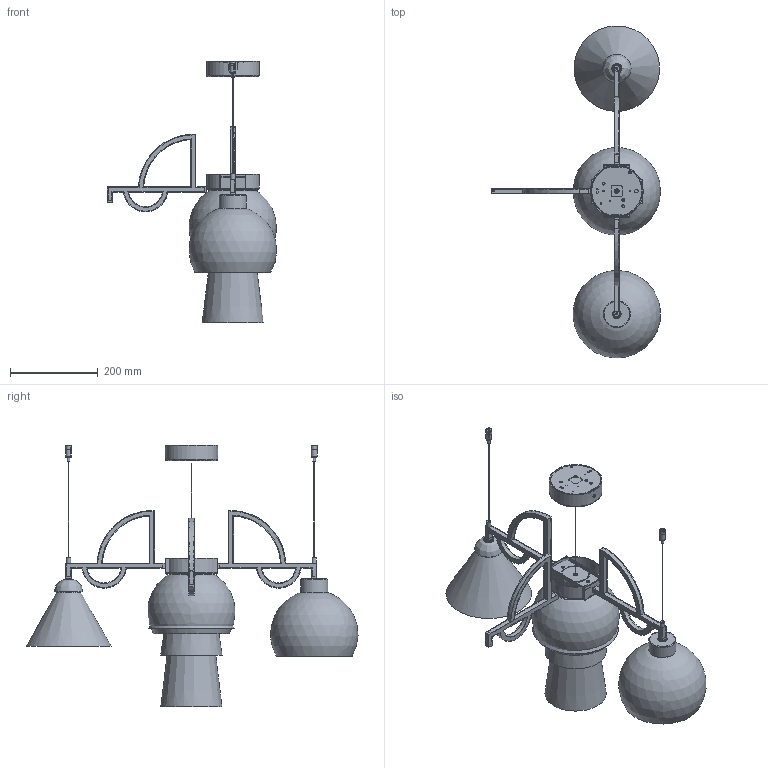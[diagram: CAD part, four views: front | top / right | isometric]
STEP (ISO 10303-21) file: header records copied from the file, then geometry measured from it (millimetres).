
FILE_DESCRIPTION( ( 'Unknown' ), '1' );
FILE_NAME( '//MMS001/Pubblica/PROGETTI MM LAMPADARI/7415 MYA/3D/7415TRAVE.stp', 'Unknown', ( 'Unknown' ), ( 'Unknown' ), 'XStep 1.0', 'Unknown', ' ' );
FILE_SCHEMA( ( 'automotive_design' ) );
Length unit declared in the file: millimetre
Products named in the file (21): Assem1; Assem2; 400231108 CAPPELLOTTO E14 BIANCO; 400233113 CAMICIA E14 BIANCA FILETTATA; 7415C051 SCATOLA RACCORDO BRACCI; 7415C050 BRACCIO TRAVE; 7415C052 BRACCIO CENTRALE; 400103564 SCATOLA FE D 64x33 15-10; 400115570 12 SFERA FE D 65 1510 F.10,5 SSC; 7415C015 CUPOLA; 7415C028 CONO VETRO VETRARTI V627-B; 7415C027 CONO VETRO VETRARTI; 400105521 FERMA CAVO D; 400900733 CAVO D; 400900732 MORSETTO OT CROMATO D10 H17 10X1; 400900731 RAC.OT CROM.D13X25 M10X1; 400105437 RAC.FE ES.17X21 M10X1 FTR.10,2 ZIN; DISTANZIATORE DD30 E 4070 25 ; 7415C053 TAPPO CHIUSURA SCATOLA; 7415C054 ROSONE CIRCOLARE; 7415C045 STAFFA A MURO D.114 OPERA
Bounding box: 385.92 x 756.96 x 596.5 mm (x, y, z)
Volume: 1757515.3 mm3; surface area: 1459265.6 mm2
Topology: 51 solids, 51 shells, 1947 faces, 5006 edges, 3246 vertices
Faces by surface type: plane 1107, cylinder 480, cone 204, bspline 90, torus 62, sphere 4
Full cylindrical faces by diameter (mm): 1.5 x6, 1.567 x5, 2 x8, 3 x10, 3.242 x16, 4 x17, 4.5 x7, 5 x4, 5.5 x8, 6 x3, 8 x2, 8.917 x14, 10 x6, 10.25 x12, 10.5 x5, 12 x5, 13 x3, 16 x5, 20 x5, 22.5 x25, 28 x5, 31 x2, 44 x2, 46 x2, 50 x2, 52 x2, 60 x2, 62 x2, 117 x2, 120 x2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
Entity records: 21747 total; most frequent: CARTESIAN_POINT 7537, DIRECTION 2717, ORIENTED_EDGE 2526, EDGE_CURVE 1263, AXIS2_PLACEMENT_3D 1023, VERTEX_POINT 875, EDGE_LOOP 790, LINE 671
